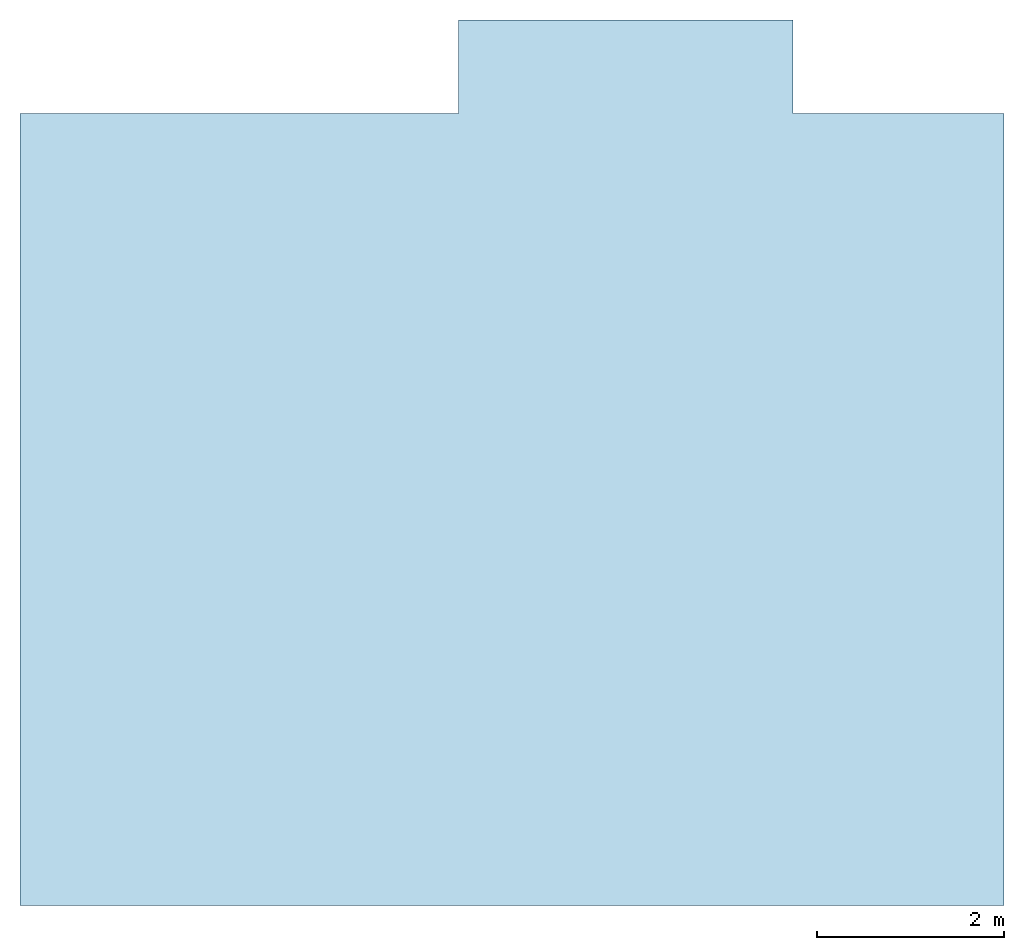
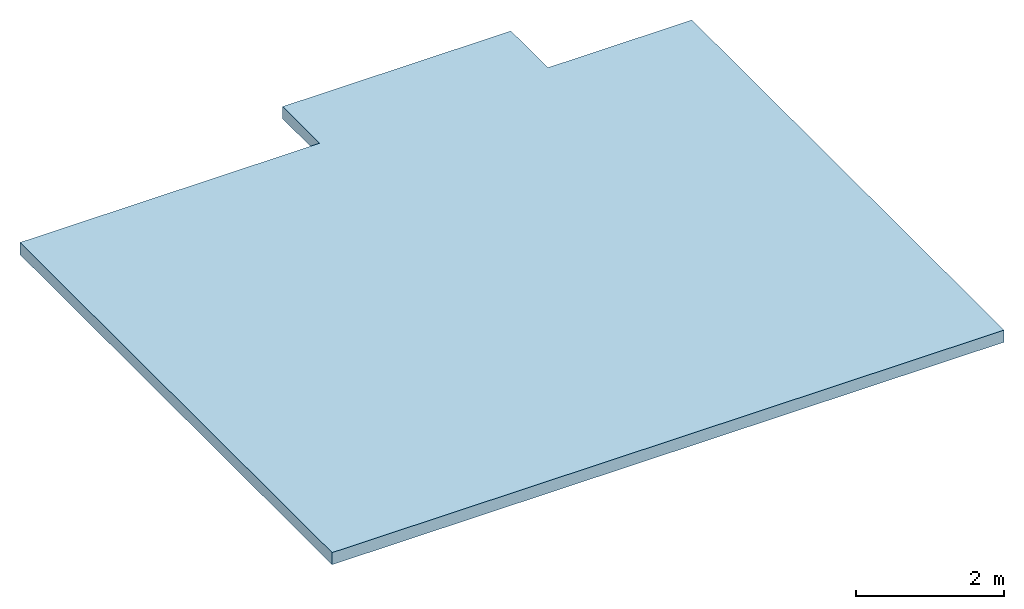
# One storey: 1 slab.
"""IFC2X3 building model written with IfcOpenShell, lengths in millimetres."""

from ifc_helpers import new_model, entity, si_unit, converted_unit, derived_unit, money_unit, direction, frame, origin_with_axes, place, context, subcontext, project, spatial, polyline, outline, extrude, material, layer, layer_set, layer_usage, type_object, element, save


model = new_model("IFC2X3")

# Units and contexts
model_context = context("Model", 3, precision=0.01, world=origin_with_axes(), true_north=direction((0.0, 1.0)))
body_context = subcontext(model_context, "Body", "Model", "MODEL_VIEW")
ifc_project = project(units=[si_unit("LENGTHUNIT", "METRE", prefix="MILLI"), si_unit("AREAUNIT", "SQUARE_METRE"), si_unit("VOLUMEUNIT", "CUBIC_METRE"), converted_unit("PLANEANGLEUNIT", "DEGREE", entity("IfcPlaneAngleMeasure", 0.0174532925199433), si_unit("PLANEANGLEUNIT", "RADIAN"), dimensions=[0, 0, 0, 0, 0, 0, 0]), money_unit("USD"), converted_unit("TIMEUNIT", "Year", entity("IfcTimeMeasure", 31557600.0), si_unit("TIMEUNIT", "SECOND"), dimensions=[0, 0, 1, 0, 0, 0, 0]), si_unit("MASSUNIT", "GRAM", prefix="KILO"), si_unit("THERMODYNAMICTEMPERATUREUNIT", "DEGREE_CELSIUS"), si_unit("LUMINOUSINTENSITYUNIT", "LUMEN"), si_unit("ENERGYUNIT", "JOULE", prefix="MEGA"), derived_unit("THERMALCONDUCTANCEUNIT", [(si_unit("POWERUNIT", "WATT"), 1), (si_unit("LENGTHUNIT", "METRE"), -1), (si_unit("THERMODYNAMICTEMPERATUREUNIT", "KELVIN"), -1)]), derived_unit("SPECIFICHEATCAPACITYUNIT", [(si_unit("ENERGYUNIT", "JOULE"), 1), (si_unit("MASSUNIT", "GRAM", prefix="KILO"), -1), (si_unit("THERMODYNAMICTEMPERATUREUNIT", "KELVIN"), -1)]), derived_unit("MASSDENSITYUNIT", [(si_unit("MASSUNIT", "GRAM", prefix="KILO"), 1), (si_unit("VOLUMEUNIT", "CUBIC_METRE"), -1)])], contexts=[model_context])

# Site, building, storey
site_placement = place(None, origin_with_axes())
site = spatial("IfcSite", under=ifc_project, at=site_placement, Name="Local", CompositionType="ELEMENT")
building_placement = place(site_placement, origin_with_axes())
building = spatial("IfcBuilding", under=site, at=building_placement, Name="Construção", CompositionType="ELEMENT")
storey_placement = place(building_placement, frame((0.0, 0.0, -280.0), z_axis=(0.0, 0.0, 1.0), x_axis=(1.0, 0.0, 0.0)))
storey = spatial("IfcBuildingStorey", under=building, at=storey_placement, Name="Fundação", CompositionType="ELEMENT", Elevation=-280.0)

# Slab
ifc_material = material(Name="Concreto Armado - Estrutural")
ifc_layer = layer(ifc_material, 200.0, ventilated="UNKNOWN")
ifc_layer_set = layer_set([ifc_layer], Name="Concreto Armado - Estrutural 200")
ifc_layer_usage = layer_usage(ifc_layer_set, "AXIS3", "NEGATIVE", 200.0)
slab_type = type_object("IfcSlabType", Name="Concreto Armado - Estrutural 200", PredefinedType="NOTDEFINED")
slab_placement = place(storey_placement, frame((-1000.0, -1000.0, 0.0), z_axis=(0.0, 0.0, 1.0), x_axis=(1.0, 0.0, 0.0)))
element("IfcSlab", 1, at=slab_placement, inside=storey, type_object=slab_type, material=ifc_layer_usage, Name="F01", PredefinedType="NOTDEFINED", context=body_context, shape_type="SweptSolid", body=[
    extrude(outline(polyline([(0.0, 0.0), (10500.0, 0.0), (10500.0, 8449.999999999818), (8250.0, 8449.999999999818), (8250.0, 9449.999999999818), (4681.395273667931, 9449.999999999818), (4681.395273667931, 8449.999999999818), (0.0, 8450.000000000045), (0.0, 0.0)])), origin_with_axes(), (0.0, 0.0, 1.0), 200.0),
])

save(model, "model.ifc")
